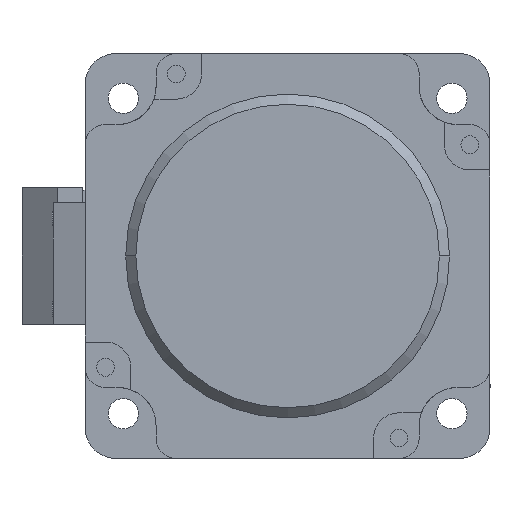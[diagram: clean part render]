
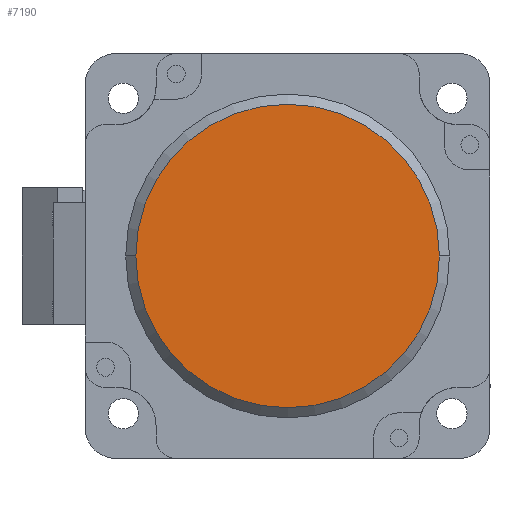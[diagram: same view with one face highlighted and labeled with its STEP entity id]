
A CAD part, front view. The second image highlights one B-rep face of the part: STEP entity #7190.
In plain terms, the highlighted planar face has unit normal (0, -1, 0).
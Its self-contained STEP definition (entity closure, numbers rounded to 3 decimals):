
#391 = CARTESIAN_POINT ( 'NONE',  ( 30., -2., 0. ) ) ;
#802 = DIRECTION ( 'NONE',  ( 0., -1., 0. ) ) ;
#1180 = DIRECTION ( 'NONE',  ( -1., 0., 0. ) ) ;
#1981 = AXIS2_PLACEMENT_3D ( 'NONE', #5338, #7865, #3320 ) ;
#2725 = ORIENTED_EDGE ( 'NONE', *, *, #5923, .F. ) ;
#2737 = PLANE ( 'NONE',  #4702 ) ;
#3190 = FACE_OUTER_BOUND ( 'NONE', #3424, .T. ) ;
#3320 = DIRECTION ( 'NONE',  ( -1., 0., 0. ) ) ;
#3424 = EDGE_LOOP ( 'NONE', ( #2725, #4252 ) ) ;
#3605 = CARTESIAN_POINT ( 'NONE',  ( -30., -2., 0. ) ) ;
#3822 = DIRECTION ( 'NONE',  ( 0., 1., 0. ) ) ;
#4252 = ORIENTED_EDGE ( 'NONE', *, *, #6176, .F. ) ;
#4471 = VERTEX_POINT ( 'NONE', #391 ) ;
#4555 = AXIS2_PLACEMENT_3D ( 'NONE', #5058, #3822, #1180 ) ;
#4702 = AXIS2_PLACEMENT_3D ( 'NONE', #5806, #802, #7093 ) ;
#5058 = CARTESIAN_POINT ( 'NONE',  ( 0., -2., 0. ) ) ;
#5338 = CARTESIAN_POINT ( 'NONE',  ( 0., -2., 0. ) ) ;
#5806 = CARTESIAN_POINT ( 'NONE',  ( 0., -2., 0. ) ) ;
#5923 = EDGE_CURVE ( 'NONE', #7003, #4471, #6349, .T. ) ;
#6176 = EDGE_CURVE ( 'NONE', #4471, #7003, #6932, .T. ) ;
#6349 = CIRCLE ( 'NONE', #1981, 30. ) ;
#6932 = CIRCLE ( 'NONE', #4555, 30. ) ;
#7003 = VERTEX_POINT ( 'NONE', #3605 ) ;
#7093 = DIRECTION ( 'NONE',  ( 1., 0., 0. ) ) ;
#7190 = ADVANCED_FACE ( 'NONE', ( #3190 ), #2737, .T. ) ;
#7865 = DIRECTION ( 'NONE',  ( 0., 1., 0. ) ) ;
